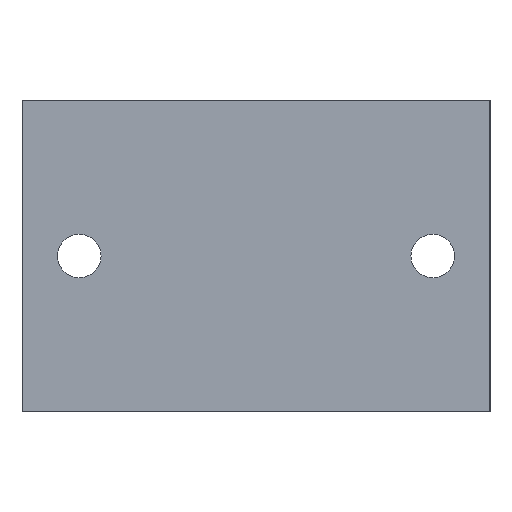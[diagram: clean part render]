
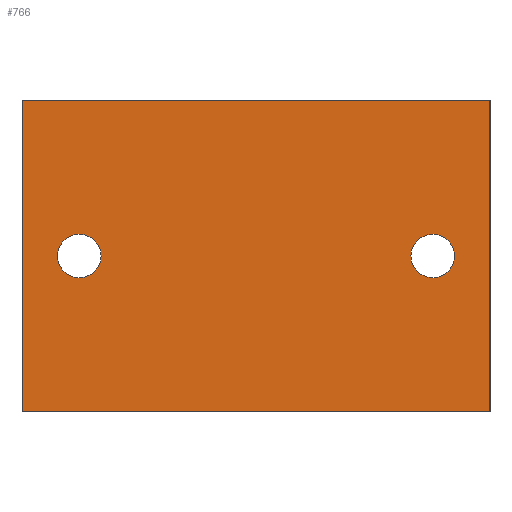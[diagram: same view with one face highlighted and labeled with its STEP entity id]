
A CAD part, front view. The second image highlights one B-rep face of the part: STEP entity #766.
In plain terms, the highlighted planar face has unit normal (0, -1, 0).
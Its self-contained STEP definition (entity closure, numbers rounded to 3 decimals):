
#64 = CARTESIAN_POINT ( 'NONE',  ( -22.5, -19., 15. ) ) ;
#73 = DIRECTION ( 'NONE',  ( 0., 0., -1. ) ) ;
#84 = DIRECTION ( 'NONE',  ( 1., 0., 0. ) ) ;
#100 = VECTOR ( 'NONE', #73, 1000. ) ;
#101 = CARTESIAN_POINT ( 'NONE',  ( -22.5, -19., 15. ) ) ;
#113 = VERTEX_POINT ( 'NONE', #1317 ) ;
#121 = ORIENTED_EDGE ( 'NONE', *, *, #1490, .F. ) ;
#141 = EDGE_LOOP ( 'NONE', ( #1161, #288, #1055, #1478 ) ) ;
#156 = CARTESIAN_POINT ( 'NONE',  ( 17., -19., 0. ) ) ;
#161 = EDGE_CURVE ( 'NONE', #315, #113, #1452, .T. ) ;
#171 = VECTOR ( 'NONE', #84, 1000. ) ;
#229 = EDGE_CURVE ( 'NONE', #113, #781, #640, .T. ) ;
#251 = VECTOR ( 'NONE', #533, 1000. ) ;
#288 = ORIENTED_EDGE ( 'NONE', *, *, #229, .F. ) ;
#296 = VERTEX_POINT ( 'NONE', #430 ) ;
#304 = CARTESIAN_POINT ( 'NONE',  ( -22.5, -19., 15. ) ) ;
#315 = VERTEX_POINT ( 'NONE', #304 ) ;
#318 = CARTESIAN_POINT ( 'NONE',  ( -17., -19., -2.1 ) ) ;
#388 = EDGE_CURVE ( 'NONE', #879, #454, #1326, .T. ) ;
#415 = EDGE_CURVE ( 'NONE', #978, #781, #457, .T. ) ;
#417 = EDGE_CURVE ( 'NONE', #815, #296, #946, .T. ) ;
#420 = DIRECTION ( 'NONE',  ( 0., -1., 0. ) ) ;
#430 = CARTESIAN_POINT ( 'NONE',  ( -17., -19., 2.1 ) ) ;
#440 = DIRECTION ( 'NONE',  ( 0., 1., 0. ) ) ;
#444 = CARTESIAN_POINT ( 'NONE',  ( -22.5, -19., -15. ) ) ;
#454 = VERTEX_POINT ( 'NONE', #1394 ) ;
#457 = LINE ( 'NONE', #680, #171 ) ;
#473 = VECTOR ( 'NONE', #1210, 1000. ) ;
#477 = ORIENTED_EDGE ( 'NONE', *, *, #735, .F. ) ;
#533 = DIRECTION ( 'NONE',  ( 1., 0., 0. ) ) ;
#543 = DIRECTION ( 'NONE',  ( 0., 0., -1. ) ) ;
#549 = FACE_OUTER_BOUND ( 'NONE', #141, .T. ) ;
#557 = CARTESIAN_POINT ( 'NONE',  ( 17., -19., 2.1 ) ) ;
#601 = ORIENTED_EDGE ( 'NONE', *, *, #388, .F. ) ;
#630 = CIRCLE ( 'NONE', #983, 2.1 ) ;
#640 = LINE ( 'NONE', #973, #100 ) ;
#641 = LINE ( 'NONE', #747, #473 ) ;
#645 = EDGE_CURVE ( 'NONE', #315, #978, #641, .T. ) ;
#646 = FACE_BOUND ( 'NONE', #1140, .T. ) ;
#655 = PLANE ( 'NONE',  #1254 ) ;
#663 = CARTESIAN_POINT ( 'NONE',  ( -17., -19., 0. ) ) ;
#665 = AXIS2_PLACEMENT_3D ( 'NONE', #1448, #420, #543 ) ;
#670 = CARTESIAN_POINT ( 'NONE',  ( 22.5, -19., -15. ) ) ;
#680 = CARTESIAN_POINT ( 'NONE',  ( -22.5, -19., -15. ) ) ;
#735 = EDGE_CURVE ( 'NONE', #454, #879, #1350, .T. ) ;
#743 = DIRECTION ( 'NONE',  ( 0., -1., 0. ) ) ;
#747 = CARTESIAN_POINT ( 'NONE',  ( -22.5, -19., 15. ) ) ;
#759 = DIRECTION ( 'NONE',  ( 0., 0., 1. ) ) ;
#766 = ADVANCED_FACE ( 'NONE', ( #1043, #646, #549 ), #655, .F. ) ;
#768 = DIRECTION ( 'NONE',  ( 0., 0., -1. ) ) ;
#781 = VERTEX_POINT ( 'NONE', #670 ) ;
#815 = VERTEX_POINT ( 'NONE', #318 ) ;
#879 = VERTEX_POINT ( 'NONE', #557 ) ;
#946 = CIRCLE ( 'NONE', #1436, 2.1 ) ;
#956 = DIRECTION ( 'NONE',  ( 0., 0., -1. ) ) ;
#973 = CARTESIAN_POINT ( 'NONE',  ( 22.5, -19., 15. ) ) ;
#978 = VERTEX_POINT ( 'NONE', #444 ) ;
#983 = AXIS2_PLACEMENT_3D ( 'NONE', #1322, #743, #956 ) ;
#1043 = FACE_BOUND ( 'NONE', #1441, .T. ) ;
#1055 = ORIENTED_EDGE ( 'NONE', *, *, #161, .F. ) ;
#1059 = DIRECTION ( 'NONE',  ( 0., -1., 0. ) ) ;
#1067 = DIRECTION ( 'NONE',  ( 0., 0., -1. ) ) ;
#1140 = EDGE_LOOP ( 'NONE', ( #477, #601 ) ) ;
#1154 = AXIS2_PLACEMENT_3D ( 'NONE', #156, #1059, #1067 ) ;
#1161 = ORIENTED_EDGE ( 'NONE', *, *, #415, .T. ) ;
#1210 = DIRECTION ( 'NONE',  ( 0., 0., -1. ) ) ;
#1218 = ORIENTED_EDGE ( 'NONE', *, *, #417, .F. ) ;
#1254 = AXIS2_PLACEMENT_3D ( 'NONE', #101, #440, #759 ) ;
#1317 = CARTESIAN_POINT ( 'NONE',  ( 22.5, -19., 15. ) ) ;
#1322 = CARTESIAN_POINT ( 'NONE',  ( -17., -19., 0. ) ) ;
#1326 = CIRCLE ( 'NONE', #665, 2.1 ) ;
#1345 = DIRECTION ( 'NONE',  ( 0., -1., 0. ) ) ;
#1350 = CIRCLE ( 'NONE', #1154, 2.1 ) ;
#1394 = CARTESIAN_POINT ( 'NONE',  ( 17., -19., -2.1 ) ) ;
#1436 = AXIS2_PLACEMENT_3D ( 'NONE', #663, #1345, #768 ) ;
#1441 = EDGE_LOOP ( 'NONE', ( #1218, #121 ) ) ;
#1448 = CARTESIAN_POINT ( 'NONE',  ( 17., -19., 0. ) ) ;
#1452 = LINE ( 'NONE', #64, #251 ) ;
#1478 = ORIENTED_EDGE ( 'NONE', *, *, #645, .T. ) ;
#1490 = EDGE_CURVE ( 'NONE', #296, #815, #630, .T. ) ;
